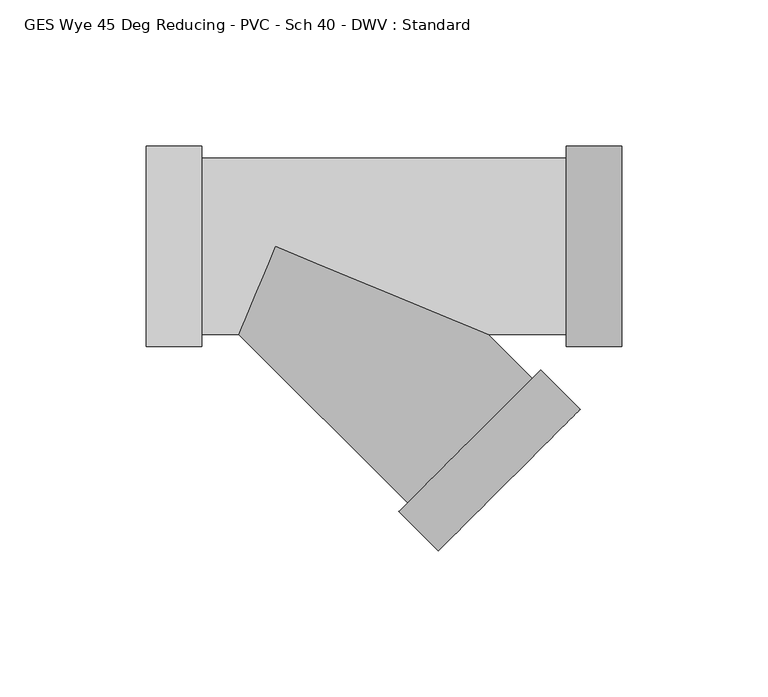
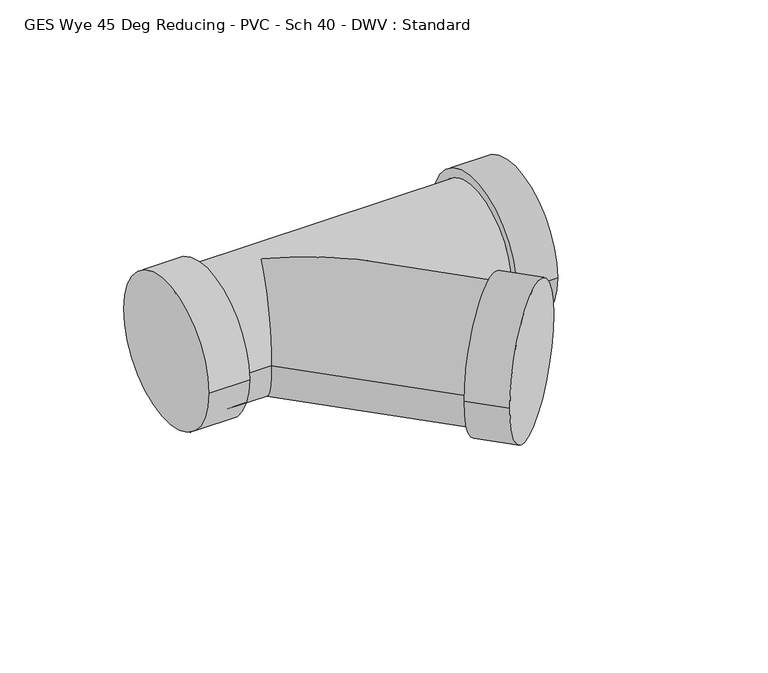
"""IFC4 building model written with IfcOpenShell, lengths in millimetres: pipe fitting geometry, GES Wye 45 Deg Reducing - PVC - Sch 40 - DWV : Standard."""

import ifcopenshell
import ifcopenshell.guid

model = None  # the IFC model being written
_history = None  # IfcOwnerHistory: only IFC2X3 demands one
_inside = {}  # id of a spatial element -> (the spatial element, [elements in it])
_under = {}  # id of a project, library or spatial element -> (it, [spatial elements below it])
_declared = {}  # id of a project -> (the project, [libraries it declares])
_typed = {}  # id of a type object -> (the type object, [elements of that type])
_made_of = {}  # id of a material, layer set ... -> (it, [elements and type objects made of it])


def new_model(schema):
    """Start an empty IFC model of exactly this schema.

    Asked for "IFC4X3", IfcOpenShell would pick the latest addendum, in which some entities
    have other attributes; the version numbers below select the first issue.
    IFC2X3 requires an IfcOwnerHistory on every rooted entity: one is made here for all.
    """
    global model, _history
    if schema == "IFC4X3":
        model = ifcopenshell.file(schema_version=(4, 3, 0, 0))
    else:
        model = ifcopenshell.file(schema=schema)
    _inside.clear()
    _under.clear()
    _declared.clear()
    _typed.clear()
    _made_of.clear()
    _history = None
    if model.schema == "IFC2X3":
        org = make("IfcOrganization", Name="unknown")
        user = make(
            "IfcPersonAndOrganization",
            ThePerson=make("IfcPerson", FamilyName="unknown"),
            TheOrganization=org,
        )
        app = make(
            "IfcApplication",
            ApplicationDeveloper=org,
            Version="unknown",
            ApplicationFullName="unknown",
            ApplicationIdentifier="unknown",
        )
        _history = make(
            "IfcOwnerHistory",
            OwningUser=user,
            OwningApplication=app,
            ChangeAction="ADDED",
            CreationDate=0,
        )
    return model


def make(cls, **values):
    """One entity of the class cls with the attributes given. An attribute that is None is left unset."""
    return model.create_entity(
        cls, **{name: value for name, value in values.items() if value is not None}
    )


def rooted(cls, **values):
    """An entity with a GlobalId (a new one), such as an element, a storey or a relation."""
    return make(cls, GlobalId=ifcopenshell.guid.new(), OwnerHistory=_history, **values)


def si_unit(unit_type, name, prefix=None):
    """IfcSIUnit, for example si_unit("LENGTHUNIT", "METRE", prefix="MILLI")."""
    return make("IfcSIUnit", UnitType=unit_type, Prefix=prefix, Name=name)


def assignment(units):
    """IfcUnitAssignment: the units of a project."""
    return None if units is None else make("IfcUnitAssignment", Units=units)


def point(xyz):
    """IfcCartesianPoint."""
    return None if xyz is None else make("IfcCartesianPoint", Coordinates=xyz)


def direction(xyz):
    """IfcDirection."""
    return None if xyz is None else make("IfcDirection", DirectionRatios=xyz)


def frame(location, z_axis=None, x_axis=None):
    """IfcAxis2Placement3D, a coordinate frame: its origin and axes. An axis left out is left unset."""
    return make(
        "IfcAxis2Placement3D",
        Location=point(location),
        Axis=direction(z_axis),
        RefDirection=direction(x_axis),
    )


def origin():
    """The frame at (0, 0, 0) with its axes left unset."""
    return frame((0.0, 0.0, 0.0))


def place(relative_to, where):
    """IfcLocalPlacement: puts the frame where relative to a parent placement (None: the world)."""
    return make(
        "IfcLocalPlacement", PlacementRelTo=relative_to, RelativePlacement=where
    )


def context(
    kind, dimensions, precision=None, world=None, true_north=None, identifier=None
):
    """IfcGeometricRepresentationContext, for example the 3D "Model" context."""
    return make(
        "IfcGeometricRepresentationContext",
        ContextIdentifier=identifier,
        ContextType=kind,
        CoordinateSpaceDimension=dimensions,
        Precision=precision,
        WorldCoordinateSystem=world,
        TrueNorth=true_north,
    )


def project(units=None, contexts=None):
    """IfcProject with its units and contexts."""
    return rooted(
        "IfcProject",
        Name="project",
        RepresentationContexts=contexts,
        UnitsInContext=assignment(units),
    )


def spatial(cls, under=None, at=None, **own):
    """A site, building, storey or space (cls), placed at a placement, below another one or the project."""
    s = rooted(cls, ObjectPlacement=at, **own)
    if under is not None:
        _under.setdefault(under.id(), (under, []))[1].append(s)
    return s


def circle_curve(where, radius):
    """IfcCircle in the frame where."""
    return make("IfcCircle", Position=where, Radius=radius)


def ellipse_curve(where, semi_axis1, semi_axis2):
    """IfcEllipse in the frame where."""
    return make(
        "IfcEllipse", Position=where, SemiAxis1=semi_axis1, SemiAxis2=semi_axis2
    )


def shape(context_of_items, identifier, shape_type, items):
    """IfcShapeRepresentation: the items that make up one representation, for example the "Body"."""
    return make(
        "IfcShapeRepresentation",
        ContextOfItems=context_of_items,
        RepresentationIdentifier=identifier,
        RepresentationType=shape_type,
        Items=items,
    )


def source(mapping_origin, context_of_items, identifier, shape_type, items):
    """IfcRepresentationMap: a shape defined once, which mapped items show again and again."""
    return make(
        "IfcRepresentationMap",
        MappingOrigin=mapping_origin,
        MappedRepresentation=shape(context_of_items, identifier, shape_type, items),
    )


def transform(
    local_origin,
    x_axis=None,
    y_axis=None,
    z_axis=None,
    scale=None,
    scale2=None,
    scale3=None,
    uniform=True,
):
    """IfcCartesianTransformationOperator3D, or its non-uniform kind. x_axis, y_axis, z_axis: its Axis1, 2, 3."""
    if uniform:
        return make(
            "IfcCartesianTransformationOperator3D",
            Axis1=direction(x_axis),
            Axis2=direction(y_axis),
            LocalOrigin=point(local_origin),
            Scale=scale,
            Axis3=direction(z_axis),
        )
    return make(
        "IfcCartesianTransformationOperator3DnonUniform",
        Axis1=direction(x_axis),
        Axis2=direction(y_axis),
        LocalOrigin=point(local_origin),
        Scale=scale,
        Axis3=direction(z_axis),
        Scale2=scale2,
        Scale3=scale3,
    )


def mapped(mapping_source, mapping_target):
    """IfcMappedItem: shows the shape of a source again, moved by a transform."""
    return make(
        "IfcMappedItem", MappingSource=mapping_source, MappingTarget=mapping_target
    )


def made_of(thing, what):
    """Note that an element or type object is made of a material, layer set ...; save() writes the relation."""
    if what is not None:
        _made_of.setdefault(what.id(), (what, []))[1].append(thing)
    return thing


def element(
    cls,
    number,
    at=None,
    inside=None,
    cuts=None,
    type_object=None,
    material=None,
    context=None,
    identifier="Body",
    shape_type=None,
    held_by="IfcProductDefinitionShape",
    body=None,
    shapes=None,
    **own,
):
    """One element of the class cls, such as IfcWall. Its Tag is "e" and its number.

    at: its placement. inside: the storey or other place that contains it. cuts: it is an
    opening in that element (IfcRelVoidsElement). A single representation is given by context,
    identifier, shape_type and body (its items); several are given by shapes. held_by: the class
    of the entity that holds the representations. save() writes the other relations.
    """
    e = rooted(cls, Tag="e%d" % number, ObjectPlacement=at, **own)
    if body is not None:
        shapes = [shape(context, identifier, shape_type, body)]
    if shapes is not None:
        e.Representation = make(held_by, Representations=shapes)
    if inside is not None:
        _inside.setdefault(inside.id(), (inside, []))[1].append(e)
    if cuts is not None:
        rooted(
            "IfcRelVoidsElement", RelatingBuildingElement=cuts, RelatedOpeningElement=e
        )
    if type_object is not None:
        _typed.setdefault(type_object.id(), (type_object, []))[1].append(e)
    return made_of(e, material)


def aggregate(whole, parts):
    """IfcRelAggregates: a whole, such as a stair, and the parts it consists of."""
    return rooted("IfcRelAggregates", RelatingObject=whole, RelatedObjects=parts)


def save(model, path):
    """Write the relations noted so far, then the file.

    IfcRelAggregates (storeys below a building ...), IfcRelContainedInSpatialStructure (elements
    in a storey), IfcRelDefinesByType, IfcRelAssociatesMaterial and IfcRelDeclares: one each for
    every whole, place, type object, material and project.
    """
    for whole, parts in _under.values():
        aggregate(whole, parts)
    for where, things in _inside.values():
        rooted(
            "IfcRelContainedInSpatialStructure",
            RelatedElements=things,
            RelatingStructure=where,
        )
    for kind, things in _typed.values():
        rooted("IfcRelDefinesByType", RelatedObjects=things, RelatingType=kind)
    for what, things in _made_of.values():
        rooted("IfcRelAssociatesMaterial", RelatedObjects=things, RelatingMaterial=what)
    for by, libraries in _declared.values():
        rooted("IfcRelDeclares", RelatingContext=by, RelatedDefinitions=libraries)
    model.write(path)


def plane_surface(at):
    """IfcPlane: the flat surface through the origin of the frame at, square to its z axis."""
    return make("IfcPlane", Position=at)


def cylinder_surface(at, radius):
    """IfcCylindricalSurface: all points at the distance radius from the z axis of the frame at."""
    return make("IfcCylindricalSurface", Position=at, Radius=radius)


def advanced_brep(points, edges, surfaces, faces):
    """IfcAdvancedBrep: a solid bounded by faces that lie on surfaces and meet in shared edges.

    An edge is (start, end): straight between two places in points (the first is 0);
    or (start, end, curve); or (start, end, curve, False) where it runs against its curve.
    A face is (place in surfaces, loops), or (place, loops, False) where it looks against
    its surface's normal. A loop lists edges by number (the first is 1), with a minus sign
    where the edge is run from its end to its start. The first loop is the outer one.
    """
    corners = [point(p) for p in points]
    vertices = [make("IfcVertexPoint", VertexGeometry=c) for c in corners]
    made = []
    for start, end, *more in edges:
        made.append(
            make(
                "IfcEdgeCurve",
                EdgeStart=vertices[start],
                EdgeEnd=vertices[end],
                EdgeGeometry=more[0] if more else make("IfcPolyline", Points=[corners[start], corners[end]]),
                SameSense=more[1] if len(more) > 1 else True,
            )
        )
    hull = []
    for where, loops, *sense in faces:
        bounds = []
        for j, loop in enumerate(loops):
            ring = [make("IfcOrientedEdge", EdgeElement=made[abs(k) - 1], Orientation=k > 0) for k in loop]
            bounds.append(
                make(
                    "IfcFaceOuterBound" if j == 0 else "IfcFaceBound",
                    Bound=make("IfcEdgeLoop", EdgeList=ring),
                    Orientation=True,
                )
            )
        hull.append(make("IfcAdvancedFace", Bounds=bounds, FaceSurface=surfaces[where], SameSense=sense[0] if sense else True))
    return make("IfcAdvancedBrep", Outer=make("IfcClosedShell", CfsFaces=hull))


def ges_wye_45_deg_reducing_pvc_sch_40_dwv_standard_66a6b449(model_context):
    return source(origin(), model_context, "Body", "AdvancedBrep", [
        advanced_brep(
        [(-25.1182187, 34.3154, 0.0), (-25.1182187, -34.3154, 0.0), (-25.1182187, 30.1625, 0.0), (-25.1182187, -30.1625, 0.0), (-44.1682187, 34.3154, 0.0), (-44.1682187, -34.3154, 0.0), (99.5759375, -34.3154, 0.0), (99.5759375, 34.3154, 0.0), (99.5759375, -30.1625, 0.0), (99.5759375, 30.1625, 0.0), (118.6259375, -34.3154, 0.0), (118.6259375, 34.3154, 0.0), (72.8247522, -30.1625, 0.0), (0.0, 0.0, -30.1625), (-12.4926811, -30.1625, 0.0), (0.0, 0.0, 30.1625), (45.2852886, -87.9336979, 0.0), (87.9390052, -45.2749816, 0.0), (42.348917, -90.8704138, 0.0), (90.8753769, -42.3382657, 0.0), (55.8200906, -104.3400085, 0.0), (104.3465505, -55.8078604, 0.0)],
        [
            (0, 1, circle_curve(frame((-25.1182187, 0.0, 0.0), z_axis=(1.0, 0.0, 0.0), x_axis=(0.0, -1.0, 0.0)), 34.3154)),
            (1, 0, circle_curve(frame((-25.1182187, 0.0, 0.0), z_axis=(1.0, 0.0, 0.0), x_axis=(0.0, -1.0, 0.0)), 34.3154)),
            (2, 3, circle_curve(frame((-25.1182187, 0.0, 0.0), z_axis=(-1.0, 0.0, 0.0), x_axis=(0.0, 0.0, -1.0)), 30.1625)),
            (3, 2, circle_curve(frame((-25.1182187, 0.0, 0.0), z_axis=(-1.0, 0.0, 0.0), x_axis=(0.0, 0.0, 1.0)), 30.1625)),
            (4, 5, circle_curve(frame((-44.1682187, 0.0, 0.0), z_axis=(-1.0, 0.0, 0.0), x_axis=(0.0, -1.0, 0.0)), 34.3154)),
            (5, 4, circle_curve(frame((-44.1682187, 0.0, 0.0), z_axis=(-1.0, 0.0, 0.0), x_axis=(0.0, -1.0, 0.0)), 34.3154)),
            (0, 4),
            (5, 1),
            (6, 7, circle_curve(frame((99.5759375, 0.0, 0.0), z_axis=(-1.0, 0.0, 0.0), x_axis=(0.0, 1.0, 0.0)), 34.3154)),
            (7, 6, circle_curve(frame((99.5759375, 0.0, 0.0), z_axis=(-1.0, 0.0, 0.0), x_axis=(0.0, 1.0, 0.0)), 34.3154)),
            (8, 9, circle_curve(frame((99.5759375, 0.0, 0.0), z_axis=(1.0, 0.0, 0.0), x_axis=(0.0, 0.0, -1.0)), 30.1625)),
            (9, 8, circle_curve(frame((99.5759375, 0.0, 0.0), z_axis=(1.0, 0.0, 0.0), x_axis=(0.0, 0.0, 1.0)), 30.1625)),
            (10, 11, circle_curve(frame((118.6259375, 0.0, 0.0), z_axis=(1.0, 0.0, 0.0), x_axis=(0.0, 1.0, 0.0)), 34.3154)),
            (11, 10, circle_curve(frame((118.6259375, 0.0, 0.0), z_axis=(1.0, 0.0, 0.0), x_axis=(0.0, 1.0, 0.0)), 34.3154)),
            (6, 10),
            (11, 7),
            (2, 9),
            (8, 12),
            (12, 13, ellipse_curve(frame((0.0, 0.0, 0.0), z_axis=(0.38265636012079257, 0.9238907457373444, 0.0), x_axis=(0.9238907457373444, -0.38265636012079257, 0.0)), 78.8239871, 30.1625)),
            (13, 14, ellipse_curve(frame((0.0, 0.0, 0.0), z_axis=(-0.9238907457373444, 0.3826563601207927, 0.0), x_axis=(0.3826563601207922, 0.9238907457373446, 0.0)), 32.6472585, 30.1625)),
            (14, 3),
            (14, 15, ellipse_curve(frame((0.0, 0.0, 0.0), z_axis=(-0.9238907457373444, 0.3826563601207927, 0.0), x_axis=(0.3826563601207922, 0.9238907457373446, 0.0)), 32.6472585, 30.1625)),
            (15, 12, ellipse_curve(frame((0.0, 0.0, 0.0), z_axis=(0.38265636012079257, 0.9238907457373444, 0.0), x_axis=(0.9238907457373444, -0.38265636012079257, 0.0)), 78.8239871, 30.1625)),
            (14, 16),
            (16, 17, circle_curve(frame((66.6121469, -66.6043397, 0.0), z_axis=(-0.7071482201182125, 0.707065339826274, 0.0), x_axis=(0.707065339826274, 0.7071482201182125, 0.0)), 30.1625)),
            (17, 12),
            (17, 16, circle_curve(frame((66.6121469, -66.6043397, 0.0), z_axis=(-0.7071482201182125, 0.707065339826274, 0.0), x_axis=(0.707065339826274, 0.7071482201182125, 0.0)), 30.1625)),
            (18, 19, circle_curve(frame((66.6121469, -66.6043397, 0.0), z_axis=(-0.7071482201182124, 0.7070653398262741, 0.0), x_axis=(0.7070653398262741, 0.7071482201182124, 0.0)), 34.3154)),
            (19, 18, circle_curve(frame((66.6121469, -66.6043397, 0.0), z_axis=(-0.7071482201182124, 0.7070653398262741, 0.0), x_axis=(0.7070653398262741, 0.7071482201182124, 0.0)), 34.3154)),
            (20, 21, circle_curve(frame((80.0833205, -80.0739345, 0.0), z_axis=(0.7071482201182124, -0.7070653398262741, 0.0), x_axis=(0.7070653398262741, 0.7071482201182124, 0.0)), 34.3154)),
            (21, 20, circle_curve(frame((80.0833205, -80.0739345, 0.0), z_axis=(0.7071482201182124, -0.7070653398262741, 0.0), x_axis=(0.7070653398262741, 0.7071482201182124, 0.0)), 34.3154)),
            (18, 20),
            (21, 19),
        ],
        [
            plane_surface(frame((-25.1182187, 0.0, 0.0), z_axis=(1.0, 0.0, 0.0), x_axis=(0.0, 0.0, 1.0))),
            plane_surface(frame((-44.1682187, 0.0, 0.0), z_axis=(-1.0, 0.0, 0.0), x_axis=(0.0, 0.0, 1.0))),
            cylinder_surface(frame((-25.1182187, 0.0, 0.0), z_axis=(1.0, 0.0, 0.0), x_axis=(0.0, -1.0, 0.0)), 34.3154),
            plane_surface(frame((99.5759375, 0.0, 0.0), z_axis=(-1.0, 0.0, 0.0), x_axis=(0.0, 0.0, 1.0))),
            plane_surface(frame((118.6259375, 0.0, 0.0), z_axis=(1.0, 0.0, 0.0), x_axis=(0.0, 0.0, 1.0))),
            cylinder_surface(frame((99.5759375, 0.0, 0.0), z_axis=(-1.0, 0.0, 0.0), x_axis=(0.0, 1.0, 0.0)), 34.3154),
            cylinder_surface(frame((-25.1182187, 0.0, 0.0), z_axis=(1.0, 0.0, 0.0), x_axis=(0.0, 0.0, -1.0)), 30.1625),
            cylinder_surface(frame((-25.1182187, 0.0, 0.0), z_axis=(1.0, 0.0, 0.0), x_axis=(0.0, 0.0, 1.0)), 30.1625),
            cylinder_surface(frame((0.0, 0.0, 0.0), z_axis=(-0.7071482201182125, 0.707065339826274, 0.0), x_axis=(0.707065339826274, 0.7071482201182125, 0.0)), 30.1625),
            plane_surface(frame((66.6121469, -66.6043397, 0.0), z_axis=(-0.7071482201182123, 0.707065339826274, 0.0), x_axis=(0.0, 0.0, 1.0))),
            plane_surface(frame((80.0833205, -80.0739345, 0.0), z_axis=(0.7071482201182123, -0.707065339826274, 0.0), x_axis=(0.0, 0.0, 1.0))),
            cylinder_surface(frame((66.6121469, -66.6043397, 0.0), z_axis=(-0.7071482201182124, 0.7070653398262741, 0.0), x_axis=(0.7070653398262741, 0.7071482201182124, 0.0)), 34.3154),
        ],
        [
            (0, [[1, 2], [3, 4]]),
            (1, [[5, 6]]),
            (2, [[-1, 7, -6, 8]]),
            (2, [[-2, -8, -5, -7]]),
            (3, [[9, 10], [11, 12]]),
            (4, [[13, 14]]),
            (5, [[-9, 15, -14, 16]]),
            (5, [[-10, -16, -13, -15]]),
            (6, [[17, -11, 18, 19, 20, 21, -3]]),
            (7, [[-17, -4, -21, 22, 23, -18, -12]]),
            (8, [[24, 25, 26, -23, -22]]),
            (8, [[-24, -20, -19, -26, 27]]),
            (9, [[28, 29], [-25, -27]]),
            (10, [[30, 31]]),
            (11, [[-28, 32, -31, 33]]),
            (11, [[-29, -33, -30, -32]]),
        ],
    ),
    ])


if __name__ == "__main__":
    model = new_model("IFC4")
    model_context = context("Model", 3, world=origin())
    ifc_project = project(units=[si_unit("LENGTHUNIT", "METRE", prefix="MILLI")], contexts=[model_context])
    site = spatial("IfcSite", under=ifc_project)
    building = spatial("IfcBuilding", under=site)
    placement = place(None, origin())
    ges_wye_45_deg_reducing_pvc_sch_40_dwv_standard_shape = ges_wye_45_deg_reducing_pvc_sch_40_dwv_standard_66a6b449(model_context)
    element("IfcPipeFitting", 1, ObjectType="GES Wye 45 Deg Reducing - PVC - Sch 40 - DWV : Standard", at=placement, inside=building, context=model_context, shape_type="MappedRepresentation", body=[
        mapped(ges_wye_45_deg_reducing_pvc_sch_40_dwv_standard_shape, transform((0.0, 0.0, 0.0), x_axis=(1.0, 0.0, 0.0), y_axis=(0.0, 1.0, 0.0), z_axis=(0.0, 0.0, 1.0))),
    ])
    save(model, "model.ifc")
